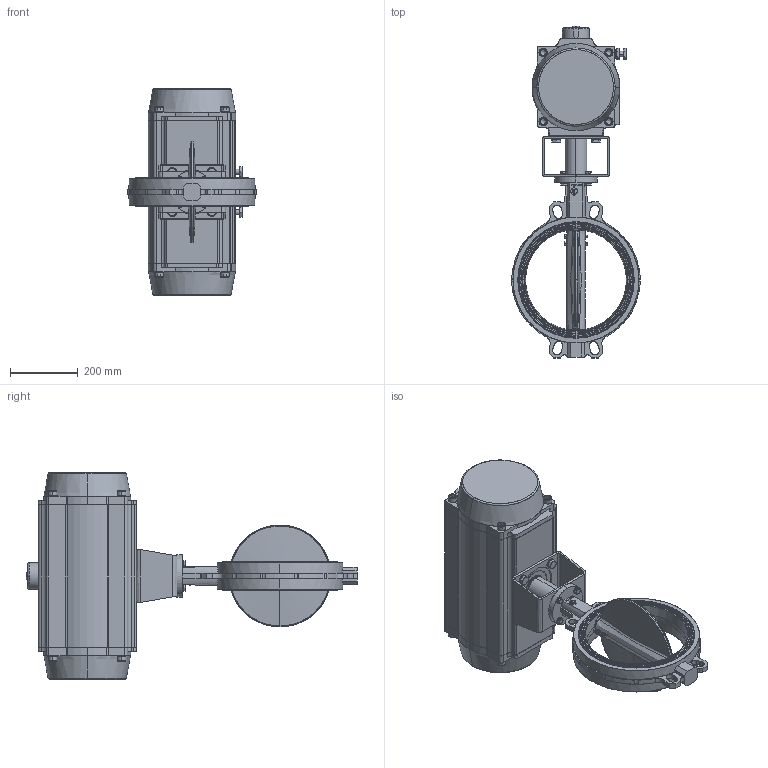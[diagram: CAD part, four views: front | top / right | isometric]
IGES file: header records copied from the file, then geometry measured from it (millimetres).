
Start section: SolidWorks IGES file using analytic representation for surfaces
Global section: file name: H:\BE BIBLIOTHEQUE 3D\BE SECTION 01 - ROBINETS A PAPILLON_VANNES PASSAGE DIRECTE\VP - Vanne Papillon\VPG\VPG4XXX-N07\WAFER\DN300\VPG444X-N07XX0300.igs; native system: SolidWorks 2020; preprocessor: SolidWorks 2020; author: k.gigout; date: 220607.083526; units: millimetre
Bounding box: 380 x 981.75 x 612 mm (x, y, z)
Surface area: 1532305.3 mm2 (no closed solid volume)
Topology: 0 solids, 0 shells, 776 faces, 22482 edges, 22478 vertices
Faces by surface type: bspline 430, revolution 346
